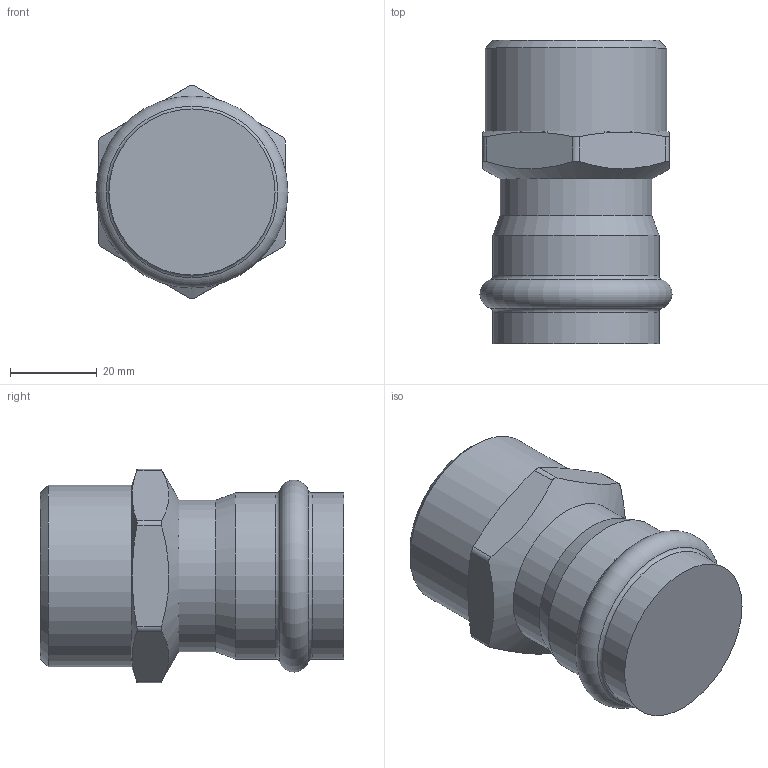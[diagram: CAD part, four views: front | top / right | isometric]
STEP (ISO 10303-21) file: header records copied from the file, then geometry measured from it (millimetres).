
FILE_DESCRIPTION(('STEP AP203'), '1');
FILE_NAME('VTi.901.I.003507', '', ('UNSPECIFIED'), ('UNSPECIFIED'), 'C3D Converter', 'C3D Toolkit', '');
FILE_SCHEMA(('CONFIG_CONTROL_DESIGN'));
Length unit declared in the file: millimetre
Bounding box: 44.29 x 70 x 49.19 mm (x, y, z)
Volume: 89045.8 mm3; surface area: 12154.5 mm2
Topology: 1 solids, 1 shells, 25 faces, 60 edges, 37 vertices
Faces by surface type: cylinder 10, plane 8, cone 4, torus 3
Full cylindrical faces by diameter (mm): 35 x1, 38.3 x2, 41.91 x1
Entity records: 1584 total; most frequent: CARTESIAN_POINT 1050, ORIENTED_EDGE 98, DIRECTION 86, EDGE_CURVE 49, AXIS2_PLACEMENT_3D 37, VERTEX_POINT 37, EDGE_LOOP 36, B_SPLINE_CURVE_WITH_KNOTS 26
